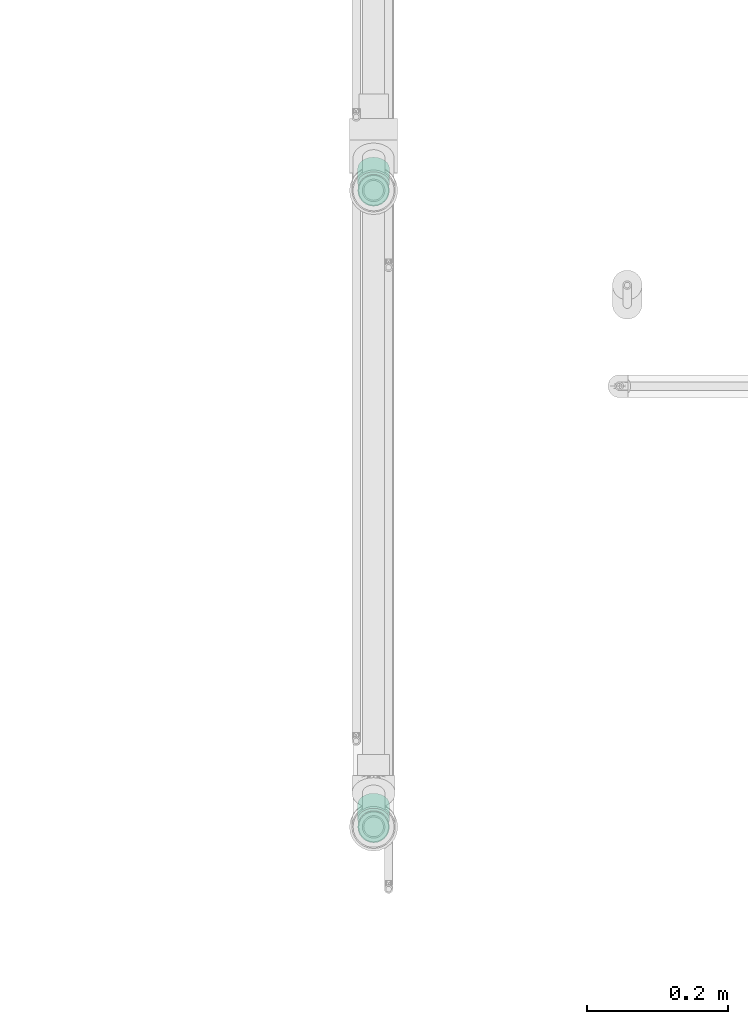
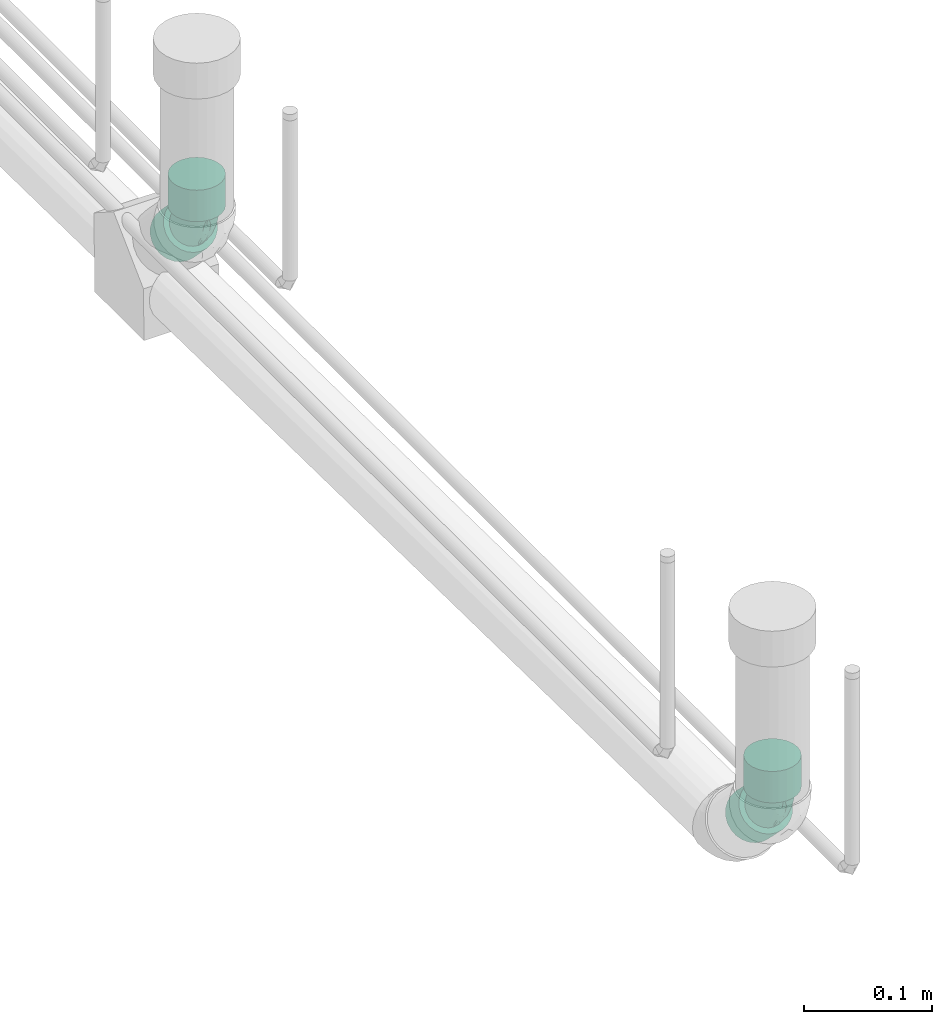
# One storey, part 47 of 108: 2 flow fittings.
"""IFC2X3 building model written with IfcOpenShell, lengths in millimetres."""

from ifc_helpers import new_model, entity, si_unit, converted_unit, derived_unit, direction, frame, origin_with_axes, place, context, subcontext, project, spatial, open_shell, surface_model, source, transform, mapped, type_object, element, save


model = new_model("IFC2X3")

# Units and contexts
model_context = context("Model", 3, precision=0.01, world=frame((0.0, 4.29681676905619e-09, 0.0)), true_north=direction((4.01073788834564e-13, 1.0)))
plan_context = context("Plan", 3, precision=0.01, world=frame((0.0, 4.29681676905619e-09, 0.0)), true_north=direction((4.01073788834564e-13, 1.0)))
body_context = subcontext(model_context, "Body", "Model", "MODEL_VIEW")
ifc_project = project(units=[converted_unit("PLANEANGLEUNIT", "DEGREE", entity("IfcPositiveLengthMeasure", 0.0174532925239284), si_unit("PLANEANGLEUNIT", "RADIAN"), dimensions=[0, 0, 0, 0, 0, 0, 0]), si_unit("AREAUNIT", "SQUARE_METRE"), si_unit("LENGTHUNIT", "METRE", prefix="MILLI"), si_unit("MASSUNIT", "GRAM", prefix="KILO"), si_unit("POWERUNIT", "WATT"), si_unit("PRESSUREUNIT", "PASCAL", prefix="KILO"), si_unit("FORCEUNIT", "NEWTON", prefix="KILO"), si_unit("ELECTRICVOLTAGEUNIT", "VOLT"), si_unit("ELECTRICCURRENTUNIT", "AMPERE"), si_unit("THERMODYNAMICTEMPERATUREUNIT", "DEGREE_CELSIUS"), si_unit("TIMEUNIT", "SECOND"), si_unit("VOLUMEUNIT", "CUBIC_METRE"), derived_unit("LINEARVELOCITYUNIT", [(si_unit("LENGTHUNIT", "METRE"), 1), (si_unit("TIMEUNIT", "SECOND"), -1)]), derived_unit("VOLUMETRICFLOWRATEUNIT", [(si_unit("VOLUMEUNIT", "CUBIC_METRE"), 1), (si_unit("TIMEUNIT", "SECOND"), -1)]), derived_unit("THERMALTRANSMITTANCEUNIT", [(si_unit("POWERUNIT", "WATT"), 1), (si_unit("THERMODYNAMICTEMPERATUREUNIT", "KELVIN"), -1), (si_unit("AREAUNIT", "SQUARE_METRE"), -1)]), derived_unit("SOUNDPRESSUREUNIT", [(si_unit("PRESSUREUNIT", "PASCAL"), 1)])], contexts=[model_context, plan_context])

# Site, building, storey
site_placement = place(None, frame((0.0, -4.29681676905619e-09, 0.0), z_axis=(0.0, 0.0, 1.0), x_axis=(1.0, 0.0, 0.0)))
site = spatial("IfcSite", under=ifc_project, at=site_placement, CompositionType="ELEMENT")
building_placement = place(site_placement, frame((0.0, 4.29681676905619e-09, 0.0), z_axis=(0.0, 0.0, 1.0), x_axis=(1.0, 0.0, 0.0)))
building = spatial("IfcBuilding", under=site, at=building_placement, Name="mc-building", CompositionType="ELEMENT")
storey_placement = place(building_placement, frame((0.0, 0.0, 210200.0), z_axis=(0.0, 0.0, 1.0), x_axis=(1.0, 0.0, 0.0)))
storey = spatial("IfcBuildingStorey", under=building, at=storey_placement, Name="Nivå F - 0,7 m", CompositionType="ELEMENT", Elevation=210200.0)

# Flow fittings
pipe_fitting_type = type_object("IfcPipeFittingType", Name="magi_sewer_bend_001", PredefinedType="BEND")
shared_shape_1 = source(origin_with_axes(), body_context, "Body", "SurfaceModel", [
    surface_model("IfcShellBasedSurfaceModel", [(-44.58032, -11.3, -19.57217), (-44.58032, 5.84931, -21.82992), (-44.58032, -5.84931, -21.82992), (-44.58032, -15.98061, -15.98061), (-44.58032, 22.6, 0.0), (-44.58032, -21.82992, -5.84931), (-44.58032, -19.57217, -11.3), (-44.58032, 21.82992, -5.84931), (-44.58032, 0.0, -22.6), (-44.58032, 11.3, -19.57217), (-44.58032, 15.98061, -15.98061), (-44.58032, 19.57217, -11.3), (-44.58032, -21.82992, 5.84931), (-44.58032, -22.6, 0.0), (-44.58032, -19.57217, 11.3), (-44.58032, -15.98061, 15.98061), (-44.58032, 0.0, 22.6), (-44.58032, -11.3, 19.57217), (-44.58032, -5.84931, 21.82992), (-44.58032, 15.98061, 15.98061), (-44.58032, 19.57217, 11.3), (-44.58032, 21.82992, 5.84931), (-44.58032, 5.84931, 21.82992), (-44.58032, 11.3, 19.57217), (-14.58032, 0.0, 22.6), (-14.58032, -5.84931, 21.82992), (-14.58032, -11.3, 19.57217), (-14.58032, -15.98061, 15.98061), (-14.58032, -19.57217, 11.3), (-14.58032, -21.82992, 5.84931), (-14.58032, 22.6, 0.0), (-14.58032, 21.82992, -5.84931), (-14.58032, 5.84931, 21.82992), (-14.58032, 15.98061, 15.98061), (-14.58032, 11.3, 19.57217), (-14.58032, 19.57217, 11.3), (-14.58032, 21.82992, 5.84931), (-14.58032, -11.3, -19.57217), (-14.58032, -22.6, 0.0), (-14.58032, -21.82992, -5.84931), (-14.58032, -15.98061, -15.98061), (-14.58032, -19.57217, -11.3), (-14.58032, -5.84931, -21.82992), (-14.58032, 15.98061, -15.98061), (-14.58032, 19.57217, -11.3), (-14.58032, 11.3, -19.57217), (-14.58032, 5.84931, -21.82992), (-14.58032, 0.0, -22.6), (17.68343, 45.36266, 11.3), (15.54243, 47.50366, 0.0), (16.08696, 46.95913, 5.84931), (27.38696, 35.65913, 21.82992), (20.22305, 42.82304, 15.98061), (45.36266, 17.68343, -11.3), (23.53274, 39.51335, 19.57217), (20.22305, 42.82304, -15.98061), (16.08696, 46.95913, -5.84931), (17.68343, 45.36266, -11.3), (27.38696, 35.65913, -21.82992), (23.53274, 39.51335, -19.57217), (31.52304, 31.52304, -22.6), (31.52304, 31.52304, 22.6), (35.65913, 27.38696, 21.82992), (45.36266, 17.68343, 11.3), (39.51335, 23.53274, 19.57217), (42.82304, 20.22305, 15.98061), (46.95913, 16.08696, -5.84931), (46.95913, 16.08696, 5.84931), (47.50366, 15.54243, 0.0), (35.65913, 27.38696, -21.82992), (42.82304, 20.22305, -15.98061), (39.51335, 23.53274, -19.57217), (26.29046, -5.67077, 0.0), (25.74593, -5.12625, 5.84931), (24.14946, -3.52978, 11.3), (18.30015, 2.31953, 19.57217), (14.44593, 6.17375, 21.82992), (21.60984, -0.99016, 15.98061), (21.60984, -0.99016, -15.98061), (25.74593, -5.12625, -5.84931), (24.14946, -3.52978, -11.3), (14.44593, 6.17375, -21.82992), (18.30015, 2.31953, -19.57217), (10.30984, 10.30984, -22.6), (-0.99016, 21.60984, -15.98061), (10.30984, 10.30984, 22.6), (6.17375, 14.44593, 21.82992), (2.31953, 18.30015, 19.57217), (-0.99016, 21.60984, 15.98061), (-3.52978, 24.14946, 11.3), (-5.12625, 25.74593, -5.84931), (-5.12625, 25.74593, 5.84931), (6.17375, 14.44593, -21.82992), (2.31953, 18.30015, -19.57217), (-3.52978, 24.14946, -11.3), (-5.67077, 26.29046, 0.0), (-14.58032, 0.0, -17.6), (-14.58032, -12.44508, -12.44508), (-14.58032, 4.55522, -17.00029), (-14.58032, 8.8, -15.24205), (-14.58032, 15.24205, -8.8), (-14.58032, -17.6, 0.0), (-14.58032, 12.44508, -12.44508), (-14.58032, -8.8, 15.24205), (-14.58032, -8.8, -15.24205), (-14.58032, -4.55522, -17.00029), (-14.58032, -17.00029, -4.55522), (-14.58032, -15.24205, -8.8), (-14.58032, 17.00029, -4.55522), (-14.58032, 17.00029, 4.55522), (-14.58032, 17.6, 0.0), (-14.58032, 12.44508, 12.44508), (-14.58032, 15.24205, 8.8), (-14.58032, 4.55522, 17.00029), (-14.58032, 8.8, 15.24205), (-14.58032, -15.24205, 8.8), (-14.58032, -12.44508, 12.44508), (-14.58032, -17.00029, 4.55522), (-14.58032, -4.55522, 17.00029), (-14.58032, 0.0, 17.6), (-0.46791, 21.0876, -8.8), (10.30984, 10.30984, -17.6), (7.08882, 13.53086, -17.00029), (4.0873, 16.53238, -15.24205), (22.75492, -2.13524, 0.0), (1.50984, 19.10984, -12.44508), (-2.13524, 22.75492, 0.0), (16.53238, 4.0873, -15.24205), (21.0876, -0.46791, -8.8), (19.10984, 1.50984, -12.44508), (13.53086, 7.08882, -17.00029), (22.33087, -1.71118, -4.55522), (-1.71118, 22.33087, -4.55522), (1.50984, 19.10984, 12.44508), (-1.71118, 22.33087, 4.55522), (-0.46791, 21.0876, 8.8), (4.0873, 16.53238, 15.24205), (7.08882, 13.53086, 17.00029), (16.53238, 4.0873, 15.24205), (22.33087, -1.71118, 4.55522), (19.10984, 1.50984, 12.44508), (21.0876, -0.46791, 8.8), (10.30984, 10.30984, 17.6), (13.53086, 7.08882, 17.00029), (-6.97378, -6.45377, 16.0855), (-3.89373, -9.94711, 13.58085), (1.80713, -4.36279, 15.86374), (-5.68325, -13.46067, 10.30548), (13.5368, -5.49946, 10.30548), (-5.25281, -1.69457, 17.36683), (-6.76248, 7.32384, 16.45352), (-1.674, 4.04139, 17.53815), (-8.81841, 2.43885, 17.49319), (0.52241, 10.58075, 16.4271), (3.18167, 8.33105, 17.34401), (4.48261, -10.82198, 9.80795), (9.49472, 0.3677, 16.0855), (-7.25041, 17.50404, 7.23084), (-7.76155, 14.7602, 11.10678), (-4.99932, 12.06941, 14.36873), (1.51513, -14.79583, 3.11126), (8.04592, -12.19937, 3.11126), (5.20442, -12.56458, 6.12453), (-4.47747, -15.59042, 0.0), (-4.95962, -16.41653, 3.20637), (16.96175, -6.73263, 3.3851), (12.99832, -8.53544, 6.11203), (-7.04958, 18.8589, 3.69797), (-3.15574, -15.22667, 6.11203), (4.91254, 2.51606, 17.36683), (9.78695, -4.28039, 13.58085), (5.62537, -13.58084, 0.0), (14.19014, -7.85804, 0.0), (-7.84509, 18.93972, 0.0), (2.95412, -7.13189, 14.03502), (-5.25281, -1.69457, -17.36683), (9.39087, -11.53359, -3.11126), (2.93693, -14.31558, -3.11126), (5.20442, -12.56458, -6.12453), (4.91254, 2.51606, -17.36683), (-7.85112, 7.11232, -16.4271), (-8.14072, 3.64116, -17.34401), (-4.94879, 15.92528, -11.10678), (9.78695, -4.28039, -13.58085), (-7.25041, 17.50404, -7.23084), (12.99832, -8.53543, -6.11203), (-8.35045, 18.32006, -3.69797), (-0.39695, 9.96053, -16.45352), (-7.23308, -16.75446, -3.3851), (-3.15574, -15.22667, -6.11203), (4.48261, -10.82198, -9.80795), (13.5368, -5.49946, -10.30548), (-5.68325, -13.46067, -10.30548), (-3.89373, -9.94711, -13.58085), (2.95412, -7.13189, -14.03502), (-6.97378, -6.45377, -16.0855), (1.80713, -4.36279, -15.86374), (9.49472, 0.3677, -16.0855), (-1.674, 4.04139, -17.53815), (-4.99932, 12.06941, -14.36873), (15.11522, -8.10126, -3.20637), (4.51103, 7.96009, -17.49319)], [open_shell([[[0, 1, 2]], [[3, 4, 0]], [[4, 3, 5]], [[5, 3, 6]], [[4, 7, 0]], [[2, 1, 8]], [[0, 9, 1]], [[10, 7, 11]], [[7, 10, 9]], [[0, 7, 9]], [[12, 5, 13]], [[12, 14, 15]], [[12, 15, 16]], [[17, 18, 16]], [[17, 16, 15]], [[12, 16, 19]], [[4, 20, 21]], [[20, 4, 19]], [[19, 22, 23]], [[19, 4, 12]], [[16, 22, 19]], [[12, 4, 5]], [[24, 25, 26]], [[24, 26, 27]], [[27, 28, 29]], [[27, 29, 24]], [[30, 24, 31]], [[32, 33, 34]], [[32, 24, 33]], [[35, 30, 36]], [[30, 35, 33]], [[24, 30, 33]], [[24, 29, 31]], [[37, 38, 39]], [[40, 39, 41]], [[37, 31, 29]], [[37, 39, 40]], [[31, 37, 42]], [[31, 43, 44]], [[43, 31, 45]], [[42, 46, 45]], [[45, 31, 42]], [[47, 46, 42]], [[37, 29, 38]], [[31, 7, 30]], [[44, 11, 31]], [[9, 43, 45]], [[43, 10, 44]], [[31, 11, 7]], [[7, 4, 30]], [[8, 1, 46]], [[1, 9, 45]], [[10, 43, 9]], [[10, 11, 44]], [[46, 1, 45]], [[46, 47, 8]], [[2, 42, 37]], [[40, 0, 37]], [[6, 41, 39]], [[40, 41, 3]], [[5, 39, 38]], [[42, 2, 8]], [[37, 0, 2]], [[40, 3, 0]], [[41, 6, 3]], [[5, 6, 39]], [[38, 13, 5]], [[42, 8, 47]], [[29, 12, 38]], [[28, 14, 29]], [[17, 27, 26]], [[28, 27, 15]], [[18, 26, 25]], [[29, 14, 12]], [[12, 13, 38]], [[18, 24, 16]], [[18, 17, 26]], [[15, 27, 17]], [[15, 14, 28]], [[24, 18, 25]], [[22, 32, 34]], [[33, 23, 34]], [[20, 35, 36]], [[33, 35, 19]], [[21, 36, 30]], [[34, 23, 22]], [[22, 16, 32]], [[19, 23, 33]], [[35, 20, 19]], [[21, 20, 36]], [[30, 4, 21]], [[32, 16, 24]], [[48, 49, 50]], [[51, 48, 52]], [[48, 51, 53]], [[51, 52, 54]], [[53, 55, 48]], [[56, 55, 57]], [[56, 49, 48]], [[55, 58, 59]], [[55, 56, 48]], [[60, 58, 55]], [[61, 62, 51]], [[63, 62, 64]], [[63, 64, 65]], [[66, 63, 67]], [[62, 63, 53]], [[68, 66, 67]], [[69, 70, 71]], [[70, 69, 60]], [[60, 53, 70]], [[55, 53, 60]], [[63, 66, 53]], [[53, 51, 62]], [[72, 73, 74]], [[72, 74, 75]], [[75, 76, 72]], [[75, 74, 77]], [[72, 76, 78]], [[79, 78, 80]], [[79, 72, 78]], [[78, 81, 82]], [[81, 78, 83]], [[78, 84, 83]], [[78, 76, 84]], [[85, 86, 87]], [[87, 88, 76]], [[89, 84, 88]], [[84, 76, 88]], [[90, 89, 91]], [[92, 84, 93]], [[83, 84, 92]], [[84, 90, 94]], [[89, 90, 84]], [[91, 95, 90]], [[76, 85, 87]], [[92, 58, 83]], [[93, 59, 92]], [[57, 84, 94]], [[84, 55, 93]], [[92, 59, 58]], [[58, 60, 83]], [[49, 56, 90]], [[56, 57, 94]], [[55, 84, 57]], [[55, 59, 93]], [[90, 56, 94]], [[90, 95, 49]], [[50, 91, 89]], [[88, 48, 89]], [[54, 87, 86]], [[88, 87, 52]], [[51, 86, 85]], [[91, 50, 49]], [[89, 48, 50]], [[88, 52, 48]], [[87, 54, 52]], [[51, 54, 86]], [[85, 61, 51]], [[91, 49, 95]], [[76, 62, 85]], [[75, 64, 76]], [[63, 77, 74]], [[75, 77, 65]], [[67, 74, 73]], [[76, 64, 62]], [[62, 61, 85]], [[67, 72, 68]], [[67, 63, 74]], [[65, 77, 63]], [[65, 64, 75]], [[72, 67, 73]], [[66, 79, 80]], [[78, 53, 80]], [[71, 82, 81]], [[78, 82, 70]], [[69, 81, 83]], [[80, 53, 66]], [[66, 68, 79]], [[70, 53, 78]], [[82, 71, 70]], [[69, 71, 81]], [[83, 60, 69]], [[79, 68, 72]], [[96, 97, 98]], [[99, 98, 100]], [[100, 98, 101]], [[102, 99, 100]], [[100, 101, 103]], [[104, 97, 96]], [[96, 105, 104]], [[106, 101, 107]], [[97, 107, 101]], [[98, 97, 101]], [[103, 108, 100]], [[109, 110, 111]], [[112, 109, 111]], [[113, 114, 111]], [[110, 113, 111]], [[103, 113, 110]], [[115, 116, 117]], [[103, 117, 116]], [[118, 119, 103]], [[103, 101, 117]], [[103, 119, 113]], [[110, 108, 103]], [[120, 121, 122]], [[120, 122, 123]], [[121, 120, 124]], [[120, 123, 125]], [[126, 124, 120]], [[127, 128, 129]], [[127, 130, 121]], [[128, 124, 131]], [[124, 128, 127]], [[121, 124, 127]], [[120, 132, 126]], [[133, 126, 134]], [[133, 134, 135]], [[133, 136, 137]], [[137, 124, 133]], [[137, 138, 124]], [[139, 140, 141]], [[139, 124, 140]], [[138, 142, 143]], [[124, 138, 140]], [[137, 142, 138]], [[133, 124, 126]], [[144, 145, 146]], [[116, 147, 145]], [[103, 116, 145]], [[141, 140, 148]], [[119, 118, 149]], [[118, 103, 144]], [[114, 113, 150]], [[151, 152, 149]], [[119, 152, 113]], [[137, 153, 154]], [[145, 147, 155]], [[138, 143, 156]], [[157, 112, 158]], [[159, 111, 114]], [[160, 161, 162]], [[163, 160, 164]], [[165, 139, 166]], [[157, 167, 109]], [[115, 117, 168]], [[110, 109, 167]], [[109, 112, 157]], [[116, 115, 147]], [[150, 159, 114]], [[168, 162, 155]], [[101, 163, 164]], [[136, 133, 159]], [[142, 154, 169]], [[140, 138, 170]], [[135, 134, 157]], [[169, 143, 142]], [[160, 163, 171]], [[140, 170, 148]], [[151, 154, 153]], [[170, 138, 156]], [[115, 168, 147]], [[172, 165, 161]], [[139, 165, 124]], [[152, 150, 113]], [[167, 157, 134]], [[173, 167, 126]], [[148, 155, 166]], [[145, 174, 146]], [[146, 169, 149]], [[137, 136, 153]], [[146, 156, 169]], [[157, 158, 135]], [[151, 149, 169]], [[133, 135, 158]], [[159, 150, 153]], [[144, 149, 118]], [[112, 111, 158]], [[139, 141, 166]], [[155, 147, 168]], [[174, 155, 170]], [[155, 148, 170]], [[166, 141, 148]], [[111, 159, 158]], [[133, 158, 159]], [[159, 153, 136]], [[151, 153, 150]], [[145, 144, 103]], [[149, 144, 146]], [[169, 156, 143]], [[170, 156, 146]], [[169, 154, 151]], [[142, 137, 154]], [[149, 152, 119]], [[150, 152, 151]], [[160, 162, 168]], [[166, 155, 162]], [[160, 168, 164]], [[161, 160, 171]], [[172, 161, 171]], [[166, 162, 161]], [[168, 117, 164]], [[101, 164, 117]], [[155, 174, 145]], [[170, 146, 174]], [[126, 167, 134]], [[167, 173, 110]], [[161, 165, 166]], [[124, 165, 172]], [[105, 96, 175]], [[176, 177, 178]], [[121, 130, 179]], [[180, 181, 98]], [[100, 182, 102]], [[127, 129, 183]], [[184, 182, 100]], [[128, 131, 185]], [[108, 186, 184]], [[123, 122, 187]], [[188, 106, 189]], [[99, 180, 98]], [[163, 188, 177]], [[190, 191, 185]], [[106, 188, 101]], [[192, 97, 193]], [[97, 104, 193]], [[194, 190, 193]], [[106, 107, 189]], [[97, 192, 107]], [[195, 104, 105]], [[192, 190, 189]], [[196, 175, 179]], [[197, 179, 130]], [[110, 173, 186]], [[176, 172, 171]], [[126, 132, 186]], [[198, 179, 175]], [[125, 123, 199]], [[184, 100, 108]], [[120, 182, 184]], [[195, 193, 104]], [[187, 199, 123]], [[181, 175, 96]], [[199, 187, 180]], [[102, 199, 99]], [[172, 176, 200]], [[121, 201, 122]], [[197, 130, 127]], [[185, 178, 190]], [[129, 128, 191]], [[183, 196, 197]], [[183, 191, 190]], [[196, 195, 175]], [[124, 172, 200]], [[120, 125, 182]], [[201, 187, 122]], [[191, 183, 129]], [[183, 194, 196]], [[201, 179, 198]], [[198, 181, 180]], [[132, 184, 186]], [[128, 185, 191]], [[132, 120, 184]], [[190, 192, 193]], [[189, 107, 192]], [[125, 199, 182]], [[102, 182, 199]], [[199, 180, 99]], [[198, 180, 187]], [[175, 195, 105]], [[193, 195, 196]], [[183, 197, 127]], [[179, 197, 196]], [[175, 181, 198]], [[96, 98, 181]], [[179, 201, 121]], [[187, 201, 198]], [[176, 178, 185]], [[189, 190, 178]], [[176, 185, 200]], [[177, 176, 171]], [[163, 177, 171]], [[189, 178, 177]], [[185, 131, 200]], [[124, 200, 131]], [[190, 194, 183]], [[193, 196, 194]], [[110, 186, 108]], [[186, 173, 126]], [[177, 188, 189]], [[101, 188, 163]]])]),
])
flow_fitting_1_placement = place(storey_placement, frame((331121.18062, 460657.6, 308.080430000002), z_axis=(-1.0, 0.0, 0.0), x_axis=(0.0, -0.707106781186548, 0.707106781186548)))
element("IfcFlowFitting", 1, at=flow_fitting_1_placement, inside=storey, type_object=pipe_fitting_type, Name="magi_sewer_bend_001", context=body_context, shape_type="MappedRepresentation", body=[
    mapped(shared_shape_1, transform((0.0, 0.0, 0.0), scale=1.0)),
])
shared_shape_2 = source(origin_with_axes(), body_context, "Body", "SurfaceModel", [
    surface_model("IfcShellBasedSurfaceModel", [(-44.23786, -11.3, -19.57217), (-44.23786, 5.84931, -21.82992), (-44.23786, -5.84931, -21.82992), (-44.23786, -15.98061, -15.98061), (-44.23786, 22.6, 0.0), (-44.23786, -21.82992, -5.84931), (-44.23786, -19.57217, -11.3), (-44.23786, 21.82992, -5.84931), (-44.23786, 0.0, -22.6), (-44.23786, 11.3, -19.57217), (-44.23786, 15.98061, -15.98061), (-44.23786, 19.57217, -11.3), (-44.23786, -21.82992, 5.84931), (-44.23786, -22.6, 0.0), (-44.23786, -19.57217, 11.3), (-44.23786, -15.98061, 15.98061), (-44.23786, 0.0, 22.6), (-44.23786, -11.3, 19.57217), (-44.23786, -5.84931, 21.82992), (-44.23786, 15.98061, 15.98061), (-44.23786, 19.57217, 11.3), (-44.23786, 21.82992, 5.84931), (-44.23786, 5.84931, 21.82992), (-44.23786, 11.3, 19.57217), (-14.23786, 0.0, 22.6), (-14.23786, -5.84931, 21.82992), (-14.23786, -11.3, 19.57217), (-14.23786, -15.98061, 15.98061), (-14.23786, -19.57217, 11.3), (-14.23786, -21.82992, 5.84931), (-14.23786, 22.6, 0.0), (-14.23786, 21.82992, -5.84931), (-14.23786, 5.84931, 21.82992), (-14.23786, 15.98061, 15.98061), (-14.23786, 11.3, 19.57217), (-14.23786, 19.57217, 11.3), (-14.23786, 21.82992, 5.84931), (-14.23786, -11.3, -19.57217), (-14.23786, -22.6, 0.0), (-14.23786, -21.82992, -5.84931), (-14.23786, -15.98061, -15.98061), (-14.23786, -19.57217, -11.3), (-14.23786, -5.84931, -21.82992), (-14.23786, 15.98061, -15.98061), (-14.23786, 19.57217, -11.3), (-14.23786, 11.3, -19.57217), (-14.23786, 5.84931, -21.82992), (-14.23786, 0.0, -22.6), (16.62111, 46.44645, 5.84931), (18.19076, 44.82359, 11.3), (20.6877, 42.24201, 15.98061), (20.6877, 42.24201, -15.98061), (27.73124, 34.95971, 21.82992), (31.79783, 30.75527, 22.6), (23.94178, 38.87762, 19.57217), (16.08574, 46.99997, 0.0), (18.19076, 44.82359, -11.3), (16.62111, 46.44645, -5.84931), (27.73124, 34.95971, -21.82992), (23.94178, 38.87762, -19.57217), (35.86441, 26.55083, 21.82992), (39.65387, 22.63292, 19.57217), (42.90795, 19.26853, 15.98061), (42.90795, 19.26853, -15.98061), (45.40489, 16.68695, 11.3), (46.97454, 15.0641, 5.84931), (47.50991, 14.51057, 0.0), (35.86441, 26.55083, -21.82992), (39.65387, 22.63292, -19.57217), (31.79783, 30.75527, -22.6), (46.97454, 15.0641, -5.84931), (45.40489, 16.68695, -11.3), (25.94615, -6.34618, 0.0), (25.41077, -5.79266, 5.84931), (23.84113, -4.1698, 11.3), (14.30065, 5.69408, 21.82992), (18.09011, 1.77617, 19.57217), (21.34419, -1.58822, 15.98061), (21.34419, -1.58822, -15.98061), (25.41077, -5.79266, -5.84931), (23.84113, -4.1698, -11.3), (18.09011, 1.77617, -19.57217), (10.23406, 9.89852, -22.6), (14.30065, 5.69408, -21.82992), (-0.87606, 21.38526, -15.98061), (-3.373, 23.96684, -11.3), (6.16747, 14.10296, 21.82992), (-0.87606, 21.38526, 15.98061), (2.37802, 18.02087, 19.57217), (-3.373, 23.96684, 11.3), (-4.94265, 25.58969, 5.84931), (6.16747, 14.10296, -21.82992), (2.37802, 18.02087, -19.57217), (-5.47803, 26.14322, 0.0), (-4.94265, 25.58969, -5.84931), (10.23406, 9.89852, 22.6), (-14.23786, 0.0, -17.6), (-14.23786, -12.44508, -12.44508), (-14.23786, 4.55522, -17.00029), (-14.23786, 8.8, -15.24205), (-14.23786, 15.24205, -8.8), (-14.23786, 12.44508, -12.44508), (-14.23786, -17.00029, 4.55522), (-14.23786, -8.8, -15.24205), (-14.23786, -4.55522, -17.00029), (-14.23786, -15.24205, -8.8), (-14.23786, -17.00029, -4.55522), (-14.23786, -17.6, 0.0), (-14.23786, 17.00029, -4.55522), (-14.23786, -8.8, 15.24205), (-14.23786, 17.00029, 4.55522), (-14.23786, 17.6, 0.0), (-14.23786, 12.44508, 12.44508), (-14.23786, 15.24205, 8.8), (-14.23786, 4.55522, 17.00029), (-14.23786, 8.8, 15.24205), (-14.23786, -15.24205, 8.8), (-14.23786, -12.44508, 12.44508), (-14.23786, -4.55522, 17.00029), (-14.23786, 0.0, 17.6), (7.06716, 13.17277, -17.00029), (13.40096, 6.62427, -17.00029), (10.23406, 9.89852, -17.6), (-0.36259, 20.85438, -8.8), (4.11608, 16.22389, -15.24205), (1.58193, 18.84394, -12.44508), (-1.58497, 22.1182, -4.55522), (18.88619, 0.95309, -12.44508), (16.35204, 3.57315, -15.24205), (22.05309, -2.32116, 4.55522), (20.83072, -1.05734, -8.8), (22.05309, -2.32116, -4.55522), (22.47002, -2.75222, 0.0), (16.35204, 3.57315, 15.24205), (-1.58497, 22.1182, 4.55522), (-0.36259, 20.85438, 8.8), (1.58193, 18.84394, 12.44508), (4.11608, 16.22389, 15.24205), (7.06716, 13.17277, 17.00029), (18.88619, 0.95309, 12.44508), (20.83072, -1.05734, 8.8), (10.23406, 9.89852, 17.6), (13.40096, 6.62427, 17.00029), (-2.0019, 22.54926, 0.0), (-6.82773, -6.47022, 16.09377), (-3.68728, -9.96292, 13.59382), (1.80556, -4.46384, 15.88137), (-5.37111, -13.45892, 10.31538), (13.21769, -5.94004, 10.31538), (-5.00718, -1.70123, 17.36964), (-6.47451, 7.32255, 16.44842), (-1.60461, 3.96704, 17.53521), (-8.6354, 2.42874, 17.49127), (3.11032, 8.15055, 17.33099), (-2.97703, -15.25513, 6.13399), (4.43112, -10.95497, 9.84682), (9.40597, 0.09607, 16.09377), (-7.05915, 17.4522, 7.21016), (-7.43338, 14.76297, 11.09799), (-4.85871, 12.01211, 14.35213), (1.78197, -14.80412, 3.19487), (8.83787, -11.96522, 3.19487), (5.12572, -12.67223, 6.28359), (-4.3386, -15.67375, 0.0), (-4.69362, -16.43007, 3.20985), (14.60348, -8.67814, 3.19143), (12.74561, -8.89557, 6.13399), (-6.95086, 18.75136, 3.68688), (4.78186, 2.25828, 17.36964), (9.57685, -4.59778, 13.59382), (5.56066, -13.74751, 0.0), (0.64229, 10.47249, 16.41821), (14.01534, -8.24986, 0.0), (-7.63836, 18.88416, 0.0), (2.90431, -7.18027, 14.11298), (-5.00718, -1.70123, -17.36964), (9.01133, -11.87996, -3.19487), (1.96593, -14.74482, -3.19487), (5.12572, -12.67223, -6.28358), (4.78186, 2.25828, -17.36964), (-7.90214, 3.69618, -17.33099), (-4.92053, 15.77938, -11.09799), (9.57685, -4.59778, -13.59382), (-7.05915, 17.4522, -7.21016), (12.74561, -8.89557, -6.13399), (-8.0402, 18.31074, -3.68688), (-0.43699, 9.76463, -16.44842), (-4.4636, -16.39048, -3.19143), (-2.97703, -15.25513, -6.13399), (-7.74241, 7.081, -16.41821), (-5.37111, -13.45892, -10.31538), (4.43112, -10.95497, -9.84682), (-3.68728, -9.96292, -13.59382), (2.90431, -7.18027, -14.11298), (-6.82773, -6.47022, -16.09377), (1.80556, -4.46384, -15.88137), (9.40597, 0.09607, -16.09377), (-1.60461, 3.96704, -17.53521), (-4.85871, 12.0121, -14.35213), (14.79633, -8.54668, -3.20985), (4.51854, 7.74931, -17.49127), (13.21769, -5.94004, -10.31538)], [open_shell([[[0, 1, 2]], [[3, 4, 0]], [[4, 3, 5]], [[5, 3, 6]], [[4, 7, 0]], [[2, 1, 8]], [[0, 9, 1]], [[10, 7, 11]], [[7, 10, 9]], [[0, 7, 9]], [[12, 5, 13]], [[12, 14, 15]], [[12, 15, 16]], [[17, 18, 16]], [[17, 16, 15]], [[12, 16, 19]], [[4, 20, 21]], [[20, 4, 19]], [[19, 22, 23]], [[19, 4, 12]], [[16, 22, 19]], [[12, 4, 5]], [[24, 25, 26]], [[24, 26, 27]], [[27, 28, 29]], [[27, 29, 24]], [[30, 24, 31]], [[32, 33, 34]], [[33, 32, 30]], [[35, 30, 36]], [[30, 35, 33]], [[32, 24, 30]], [[24, 29, 31]], [[37, 38, 39]], [[40, 39, 41]], [[37, 31, 29]], [[37, 39, 40]], [[31, 37, 42]], [[31, 43, 44]], [[43, 31, 45]], [[42, 46, 45]], [[45, 31, 42]], [[47, 46, 42]], [[37, 29, 38]], [[31, 7, 30]], [[44, 11, 31]], [[9, 43, 45]], [[43, 10, 44]], [[31, 11, 7]], [[7, 4, 30]], [[8, 1, 46]], [[1, 9, 45]], [[10, 43, 9]], [[10, 11, 44]], [[46, 1, 45]], [[46, 47, 8]], [[2, 42, 37]], [[40, 0, 37]], [[6, 41, 39]], [[40, 41, 3]], [[5, 39, 38]], [[42, 2, 8]], [[37, 0, 2]], [[40, 3, 0]], [[41, 6, 3]], [[5, 6, 39]], [[38, 13, 5]], [[42, 8, 47]], [[29, 12, 38]], [[28, 14, 29]], [[17, 27, 26]], [[28, 27, 15]], [[18, 26, 25]], [[29, 14, 12]], [[12, 13, 38]], [[18, 24, 16]], [[18, 17, 26]], [[15, 27, 17]], [[15, 14, 28]], [[24, 18, 25]], [[22, 32, 34]], [[33, 23, 34]], [[20, 35, 36]], [[33, 35, 19]], [[21, 36, 30]], [[34, 23, 22]], [[22, 16, 32]], [[19, 23, 33]], [[35, 20, 19]], [[21, 20, 36]], [[30, 4, 21]], [[32, 16, 24]], [[48, 49, 50]], [[51, 48, 50]], [[52, 53, 50]], [[52, 50, 54]], [[51, 50, 53]], [[55, 56, 57]], [[55, 48, 56]], [[51, 58, 59]], [[56, 48, 51]], [[53, 58, 51]], [[53, 60, 58]], [[60, 61, 62]], [[63, 60, 62]], [[64, 65, 66]], [[64, 66, 62]], [[63, 62, 66]], [[67, 63, 68]], [[63, 67, 69]], [[63, 70, 71]], [[69, 58, 63]], [[66, 70, 63]], [[63, 58, 60]], [[72, 73, 74]], [[72, 74, 75]], [[76, 75, 74]], [[76, 74, 77]], [[72, 75, 78]], [[79, 78, 80]], [[79, 72, 78]], [[81, 82, 83]], [[82, 81, 78]], [[78, 84, 82]], [[78, 75, 85]], [[86, 87, 75]], [[87, 86, 88]], [[85, 87, 89]], [[75, 87, 85]], [[90, 85, 89]], [[91, 84, 92]], [[82, 84, 91]], [[85, 93, 94]], [[78, 85, 84]], [[90, 93, 85]], [[86, 75, 95]], [[91, 58, 82]], [[92, 59, 91]], [[56, 84, 85]], [[84, 51, 92]], [[91, 59, 58]], [[58, 69, 82]], [[55, 57, 94]], [[57, 56, 85]], [[51, 84, 56]], [[51, 59, 92]], [[94, 57, 85]], [[94, 93, 55]], [[48, 90, 89]], [[87, 49, 89]], [[54, 88, 86]], [[87, 88, 50]], [[52, 86, 95]], [[90, 48, 55]], [[89, 49, 48]], [[87, 50, 49]], [[88, 54, 50]], [[52, 54, 86]], [[95, 53, 52]], [[90, 55, 93]], [[75, 60, 95]], [[76, 61, 75]], [[64, 77, 74]], [[76, 77, 62]], [[65, 74, 73]], [[75, 61, 60]], [[60, 53, 95]], [[65, 72, 66]], [[65, 64, 74]], [[62, 77, 64]], [[62, 61, 76]], [[72, 65, 73]], [[70, 79, 80]], [[78, 71, 80]], [[68, 81, 83]], [[78, 81, 63]], [[67, 83, 82]], [[80, 71, 70]], [[70, 66, 79]], [[63, 71, 78]], [[81, 68, 63]], [[67, 68, 83]], [[82, 69, 67]], [[79, 66, 72]], [[96, 97, 98]], [[99, 98, 100]], [[100, 98, 97]], [[101, 99, 100]], [[102, 100, 97]], [[103, 97, 96]], [[96, 104, 103]], [[105, 102, 97]], [[102, 105, 106]], [[107, 102, 106]], [[108, 100, 109]], [[110, 111, 112]], [[113, 110, 112]], [[114, 115, 112]], [[111, 114, 112]], [[109, 114, 111]], [[116, 117, 102]], [[109, 102, 117]], [[118, 119, 109]], [[109, 100, 102]], [[109, 119, 114]], [[111, 108, 109]], [[120, 121, 122]], [[123, 120, 124]], [[120, 123, 121]], [[123, 124, 125]], [[126, 121, 123]], [[121, 127, 128]], [[121, 126, 127]], [[127, 129, 130]], [[129, 131, 130]], [[131, 129, 132]], [[126, 133, 127]], [[126, 134, 135]], [[126, 135, 136]], [[136, 137, 138]], [[126, 136, 138]], [[138, 133, 126]], [[129, 139, 140]], [[139, 129, 133]], [[133, 141, 142]], [[129, 127, 133]], [[138, 141, 133]], [[134, 126, 143]], [[144, 145, 146]], [[116, 147, 117]], [[109, 117, 145]], [[140, 139, 148]], [[119, 118, 149]], [[118, 109, 144]], [[115, 114, 150]], [[151, 152, 149]], [[119, 152, 114]], [[138, 153, 141]], [[154, 155, 147]], [[133, 142, 156]], [[157, 113, 158]], [[159, 112, 115]], [[160, 161, 162]], [[163, 160, 164]], [[165, 166, 161]], [[157, 167, 110]], [[116, 102, 154]], [[111, 110, 167]], [[110, 113, 157]], [[147, 145, 117]], [[150, 159, 115]], [[154, 162, 155]], [[107, 163, 164]], [[137, 136, 159]], [[141, 153, 168]], [[139, 133, 169]], [[135, 134, 157]], [[168, 142, 141]], [[160, 163, 170]], [[166, 140, 148]], [[171, 153, 138]], [[169, 133, 156]], [[154, 147, 116]], [[172, 165, 161]], [[129, 165, 132]], [[152, 150, 114]], [[167, 157, 134]], [[173, 167, 143]], [[148, 169, 155]], [[145, 174, 146]], [[146, 168, 149]], [[138, 137, 171]], [[146, 156, 168]], [[157, 158, 135]], [[151, 149, 168]], [[136, 135, 158]], [[159, 150, 171]], [[144, 149, 118]], [[113, 112, 158]], [[129, 140, 166]], [[145, 147, 155]], [[174, 155, 169]], [[169, 148, 139]], [[166, 148, 155]], [[112, 159, 158]], [[136, 158, 159]], [[159, 171, 137]], [[151, 171, 150]], [[145, 144, 109]], [[149, 144, 146]], [[168, 156, 142]], [[169, 156, 146]], [[171, 151, 153]], [[153, 151, 168]], [[149, 152, 119]], [[150, 152, 151]], [[160, 162, 154]], [[166, 155, 162]], [[160, 154, 164]], [[161, 160, 170]], [[172, 161, 170]], [[166, 162, 161]], [[154, 102, 164]], [[107, 164, 102]], [[132, 165, 172]], [[129, 166, 165]], [[155, 174, 145]], [[169, 146, 174]], [[143, 167, 134]], [[167, 173, 111]], [[104, 96, 175]], [[176, 177, 178]], [[122, 121, 179]], [[180, 96, 98]], [[100, 181, 101]], [[128, 127, 182]], [[183, 181, 100]], [[130, 131, 184]], [[108, 185, 183]], [[124, 120, 186]], [[187, 188, 177]], [[99, 189, 98]], [[163, 187, 177]], [[188, 190, 191]], [[106, 187, 107]], [[190, 188, 105]], [[97, 103, 192]], [[193, 191, 192]], [[106, 105, 188]], [[97, 190, 105]], [[194, 103, 104]], [[190, 192, 191]], [[195, 175, 179]], [[196, 179, 121]], [[111, 173, 185]], [[176, 172, 170]], [[143, 126, 185]], [[197, 179, 175]], [[125, 124, 198]], [[183, 100, 108]], [[123, 181, 183]], [[194, 192, 103]], [[186, 198, 124]], [[180, 175, 96]], [[198, 186, 189]], [[101, 198, 99]], [[172, 176, 199]], [[122, 200, 120]], [[196, 121, 128]], [[184, 178, 191]], [[201, 182, 127]], [[182, 195, 196]], [[184, 191, 201]], [[195, 194, 175]], [[132, 172, 199]], [[123, 125, 181]], [[200, 186, 120]], [[201, 127, 130]], [[182, 193, 195]], [[200, 179, 197]], [[189, 180, 98]], [[126, 183, 185]], [[192, 190, 97]], [[126, 123, 183]], [[184, 201, 130]], [[182, 201, 191]], [[125, 198, 181]], [[101, 181, 198]], [[198, 189, 99]], [[197, 189, 186]], [[175, 194, 104]], [[192, 194, 195]], [[182, 196, 128]], [[179, 196, 195]], [[189, 197, 180]], [[180, 197, 175]], [[179, 200, 122]], [[186, 200, 197]], [[176, 178, 184]], [[188, 191, 178]], [[176, 184, 199]], [[177, 176, 170]], [[163, 177, 170]], [[188, 178, 177]], [[184, 131, 199]], [[132, 199, 131]], [[107, 187, 163]], [[106, 188, 187]], [[191, 193, 182]], [[192, 195, 193]], [[111, 185, 108]], [[185, 173, 143]]])]),
])
flow_fitting_2_placement = place(storey_placement, frame((331121.18062, 461557.6, 317.346140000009), z_axis=(-1.0, 0.0, 0.0), x_axis=(0.0, -0.695225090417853, 0.718792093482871)))
element("IfcFlowFitting", 2, at=flow_fitting_2_placement, inside=storey, type_object=pipe_fitting_type, Name="magi_sewer_bend_001", context=body_context, shape_type="MappedRepresentation", body=[
    mapped(shared_shape_2, transform((0.0, 0.0, 0.0), scale=1.0)),
])

save(model, "model.ifc")
